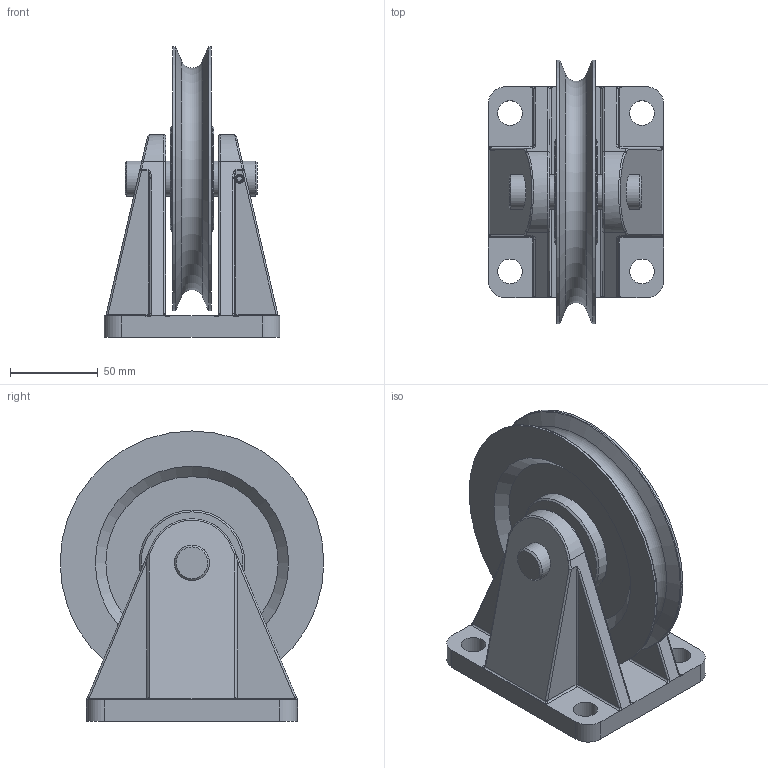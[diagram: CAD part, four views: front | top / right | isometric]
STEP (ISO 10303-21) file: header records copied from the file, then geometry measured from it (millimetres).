
FILE_DESCRIPTION(/* description */ ('Seilrollenbock ø150 Guß komplett Kugellager'),/* implementation_level */ '2;1');
FILE_NAME(/* name */ 'Z:\Workspace\03 Seilrollen\1.404 Seilrollenbock Guß Kugellager\1.404.05 Seilrollenbock ø150 Guß Kugellager\1.404.05 Seilrollenbock ø150 Guß komplett Kugellager.stp',/* time_stamp */ '2021-10-05T10:10:06+02:00',/* author */ ('cad-user'),/* organization */ (''),/* preprocessor_version */ 'ST-DEVELOPER v18',/* originating_system */ 'Autodesk Inventor 2020',/* authorisation */ '');
FILE_SCHEMA (('AUTOMOTIVE_DESIGN { 1 0 10303 214 3 1 1 }'));
Length unit declared in the file: millimetre
Products named in the file (11): 1.404.05 Seilrollenbock ø150 Guß komplett Kuegl
lager; 1.403.05.01 Seilrollenbock ø150 Gußteil; 1.403.05.02 Stange; IFI 512-S - 5; 1.402.05 Seilrolle ø150 Kugellager; DIN625 - 6004-2RS - P63; din625_-_6004-2rs_-_p63_0_05; din625_-_6004-2rs_-_p63_0_04; din625_-_6004-2rs_-_p63_0_03; din625_-_6004-2rs_-_p63_0_02; din625_-_6004-2rs_-_p63_0_01
Assembly tree (11 placements, depth 3):
  1.404.05 Seilrollenbock ø150 Guß komplett Kuegl
lager
    1.403.05.01 Seilrollenbock ø150 Gußteil
    1.403.05.02 Stange
    IFI 512-S - 5
    1.402.05 Seilrolle ø150 Kugellager
    DIN625 - 6004-2RS - P63  x2
      din625_-_6004-2rs_-_p63_0_05
      din625_-_6004-2rs_-_p63_0_04
      din625_-_6004-2rs_-_p63_0_03
      din625_-_6004-2rs_-_p63_0_02
      din625_-_6004-2rs_-_p63_0_01
Bounding box: 100 x 150 x 165 mm (x, y, z)
Volume: 664392.4 mm3; surface area: 150353.1 mm2
Topology: 14 solids, 14 shells, 239 faces, 637 edges, 430 vertices
Faces by surface type: cylinder 88, plane 62, torus 33, sphere 24, bspline 22, cone 10
Full cylindrical faces by diameter (mm): 5 x2, 14 x4, 20 x5, 24.4 x8, 26.6 x4, 35.4 x4, 36 x1, 39 x8, 42 x4, 60 x2, 150 x2
Entity records: 7746 total; most frequent: CARTESIAN_POINT 2539, DIRECTION 1076, ORIENTED_EDGE 958, EDGE_CURVE 479, AXIS2_PLACEMENT_3D 462, VERTEX_POINT 328, EDGE_LOOP 241, CIRCLE 225
